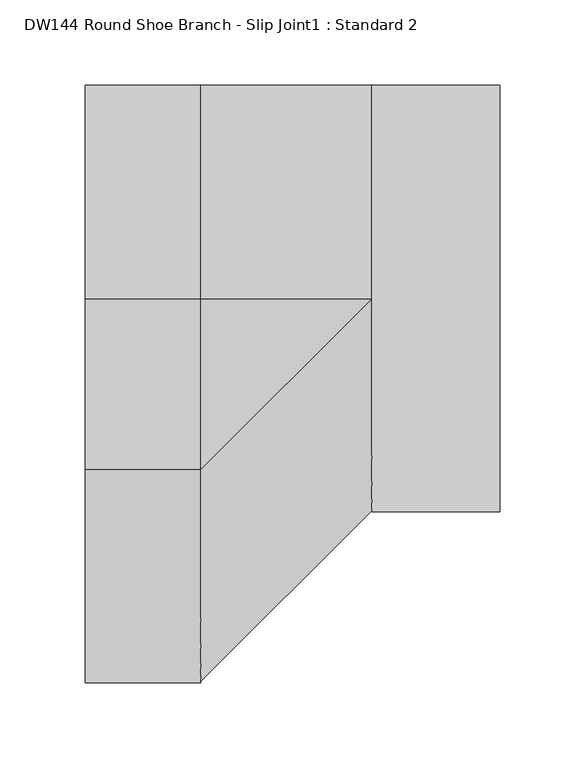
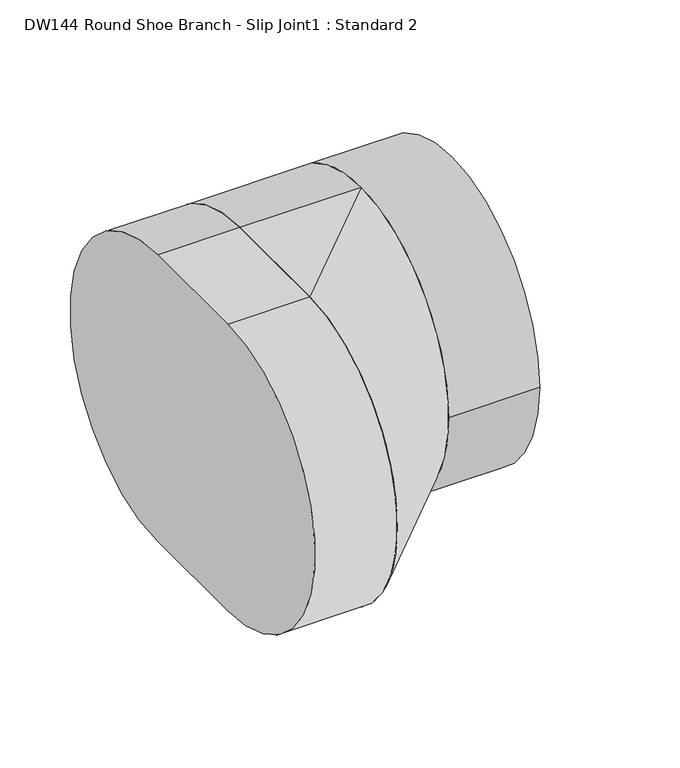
"""IFC4 building model written with IfcOpenShell, lengths in millimetres: duct fitting geometry, DW144 Round Shoe Branch - Slip Joint1 : Standard 2."""

from ifc_helpers import new_model, si_unit, point, frame, frame_2d, origin, origin_2d, place, context, project, spatial, polyline, circle_curve, trimmed, segment, composite_curve, outline, extrude, source, transform, mapped, element, save
from ifc_brep_helpers import plane_surface, cylinder_surface, extruded_surface, advanced_brep


def dw144_round_shoe_branch_slip_joint1_standard_2_2e838f3e(model_context):
    return source(origin(), model_context, "Body", "SolidModel", [
        extrude(outline(composite_curve([segment(trimmed(circle_curve(origin_2d(), 125.0), [point((-125.0, 0.0))], [point((125.0, 0.0))], False, "CARTESIAN"), True, "CONTINUOUS"), segment(trimmed(circle_curve(origin_2d(), 125.0), [point((125.0, 0.0))], [point((-125.0, 0.0))], False, "CARTESIAN"), True, "CONTINUOUS")], self_intersect=False)), frame((100.0, 0.0, 0.0), z_axis=(1.0, 0.0, 0.0), x_axis=(0.0, 1.0, 0.0)), (0.0, 0.0, 1.0), 75.0),
        advanced_brep(
        [(100.0, 0.0, -125.0), (100.0, 0.0, 125.0), (0.0, 0.0, -125.0), (0.0, -100.0, -125.0), (0.0, -100.0, 125.0), (0.0, 0.0, 125.0)],
        [
            (0, 1, circle_curve(frame((100.0, 0.0, 0.0), z_axis=(1.0, 0.0, 0.0), x_axis=(0.0, 1.0, 0.0)), 125.0)),
            (1, 0, circle_curve(frame((100.0, 0.0, 0.0), z_axis=(1.0, 0.0, 0.0), x_axis=(0.0, 1.0, 0.0)), 125.0)),
            (2, 3),
            (3, 4, circle_curve(frame((0.0, -100.0, 0.0), z_axis=(-1.0, 0.0, 0.0), x_axis=(0.0, 1.0, 0.0)), 125.0)),
            (4, 5),
            (5, 2, circle_curve(frame((0.0, 0.0, 0.0), z_axis=(-1.0, 0.0, 0.0), x_axis=(0.0, 1.0, 0.0)), 125.0)),
            (5, 1),
            (0, 2),
            (4, 1),
            (3, 0),
        ],
        [
            plane_surface(frame((100.0, 0.0, 0.0), z_axis=(1.0, 0.0, 0.0), x_axis=(0.0, 1.0, 0.0))),
            plane_surface(frame((0.0, -50.0, 0.0), z_axis=(-1.0, 0.0, 0.0), x_axis=(0.0, 1.0, 0.0))),
            cylinder_surface(frame((0.0, 0.0, 0.0), z_axis=(1.0, 0.0, 0.0), x_axis=(0.0, 1.0, 0.0)), 125.0),
            plane_surface(frame((0.0, -50.0, 125.0), z_axis=(0.0, 0.0, 1.0), x_axis=(0.0, -1.0, 0.0))),
            extruded_surface(trimmed(circle_curve(frame((0.0, -100.0, 0.0), z_axis=(1.0, 0.0, 0.0), x_axis=(0.0, 1.0, 0.0)), 125.0), [point((0.0, -100.0, 125.0))], [point((0.0, -100.0, -125.0))], True, "CARTESIAN"), (100.0, 100.0, 0.0), 141.4213562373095),
            plane_surface(frame((0.0, -50.0, -125.0), z_axis=(0.0, 0.0, -1.0), x_axis=(0.0, 1.0, 0.0))),
        ],
        [
            (0, [[1, 2]]),
            (1, [[3, 4, 5, 6]]),
            (2, [[-6, 7, -1, 8]]),
            (3, [[-5, 9, -7]]),
            (4, [[-4, 10, -2, -9]]),
            (5, [[-3, -8, -10]]),
        ],
    ),
        extrude(outline(composite_curve([segment(polyline([(0.0, -125.0), (-100.0, -125.0)]), True, "CONTINUOUS"), segment(trimmed(circle_curve(frame_2d((-100.0, 0.0)), 125.0), [point((-100.0, -125.0))], [point((-100.0, 125.0))], False, "CARTESIAN"), True, "CONTINUOUS"), segment(polyline([(-100.0, 125.0), (0.0, 125.0)]), True, "CONTINUOUS"), segment(trimmed(circle_curve(origin_2d(), 125.0), [point((0.0, 125.0))], [point((0.0, -125.0))], False, "CARTESIAN"), True, "CONTINUOUS")], self_intersect=False)), frame((-67.7771605, 0.0, 0.0), z_axis=(1.0, 0.0, 0.0), x_axis=(0.0, 1.0, 0.0)), (0.0, 0.0, 1.0), 67.7771605),
    ])


if __name__ == "__main__":
    model = new_model("IFC4")
    model_context = context("Model", 3, world=origin())
    ifc_project = project(units=[si_unit("LENGTHUNIT", "METRE", prefix="MILLI")], contexts=[model_context])
    site = spatial("IfcSite", under=ifc_project)
    building = spatial("IfcBuilding", under=site)
    placement = place(None, origin())
    dw144_round_shoe_branch_slip_joint1_standard_2_shape = dw144_round_shoe_branch_slip_joint1_standard_2_2e838f3e(model_context)
    element("IfcDuctFitting", 1, ObjectType="DW144 Round Shoe Branch - Slip Joint1 : Standard 2", at=placement, inside=building, context=model_context, shape_type="MappedRepresentation", body=[
        mapped(dw144_round_shoe_branch_slip_joint1_standard_2_shape, transform((0.0, 0.0, 0.0), x_axis=(1.0, 0.0, 0.0), y_axis=(0.0, 1.0, 0.0), z_axis=(0.0, 0.0, 1.0))),
    ])
    save(model, "model.ifc")
